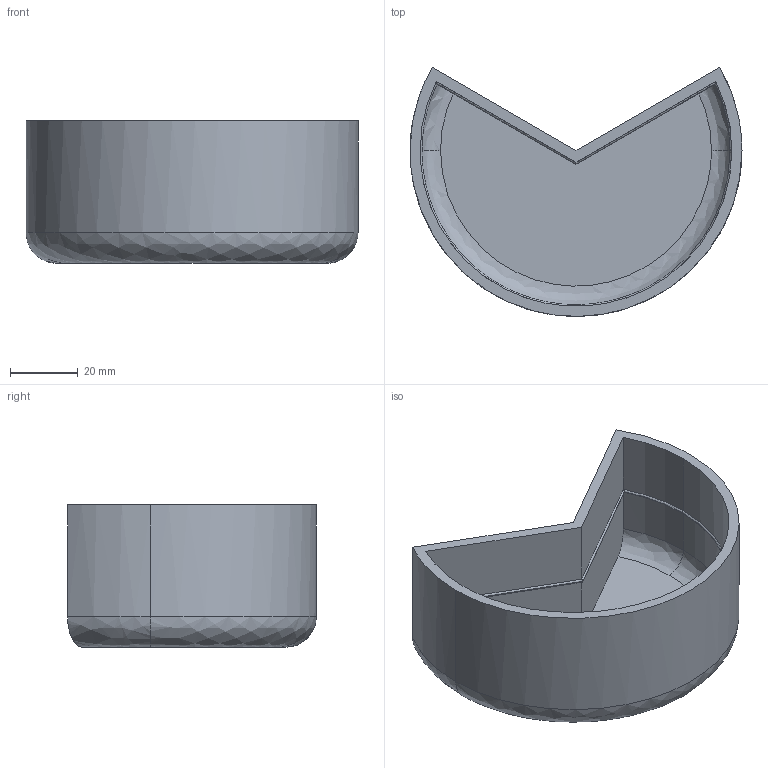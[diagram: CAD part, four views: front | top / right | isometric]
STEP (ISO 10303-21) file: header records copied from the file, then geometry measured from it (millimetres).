
FILE_DESCRIPTION(/* description */ (''),/* implementation_level */ '2;1');
FILE_NAME(/* name */ 'No Handle - 2-3 Cup',/* time_stamp */ '2020-01-31T12:03:42-08:00',/* author */ (''),/* organization */ (''),/* preprocessor_version */ 'ST-DEVELOPER v16.5',/* originating_system */ '',/* authorisation */ '');
FILE_SCHEMA (('AUTOMOTIVE_DESIGN'));
Length unit declared in the file: centimetre
Products named in the file (1): Document
Bounding box: 98 x 73.49 x 42 mm (x, y, z)
Volume: 47596.8 mm3; surface area: 32603.8 mm2
Topology: 1 solids, 1 shells, 32 faces, 71 edges, 42 vertices
Faces by surface type: bspline 23, plane 9
Entity records: 1567 total; most frequent: CARTESIAN_POINT 1129, ORIENTED_EDGE 142, EDGE_CURVE 71, VERTEX_POINT 42, EDGE_LOOP 33, B_SPLINE_CURVE_WITH_KNOTS 33, ADVANCED_FACE 32, FACE_OUTER_BOUND 32
